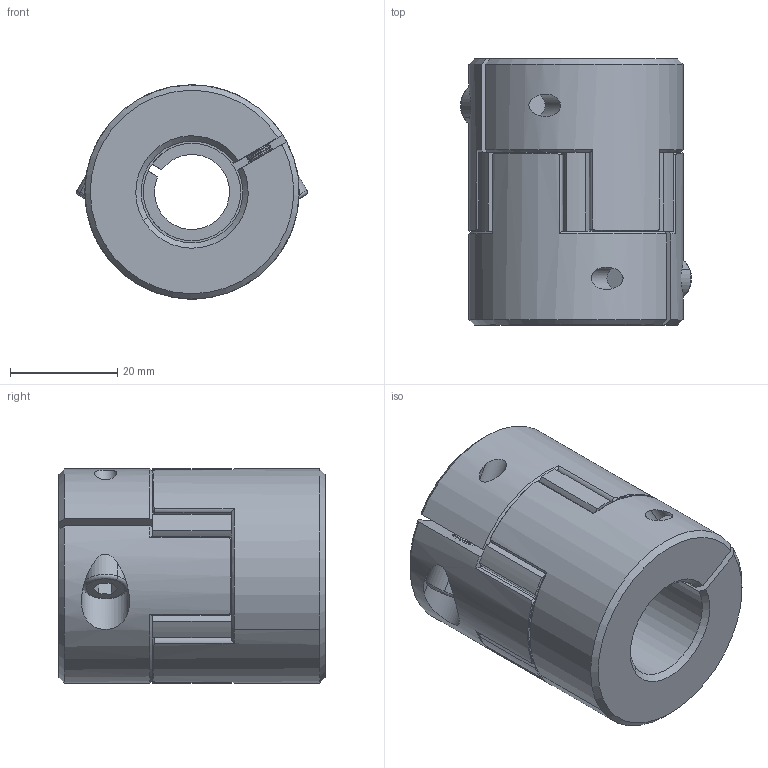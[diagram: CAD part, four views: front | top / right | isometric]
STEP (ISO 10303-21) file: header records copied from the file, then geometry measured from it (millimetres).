
FILE_DESCRIPTION (( 'STEP AP203' ), '1' );
FILE_NAME ('LF-B-D40L50-14-19.STEP', '2021-10-27T05:49:49', ( '' ), ( '' ), 'SwSTEP 2.0', 'SolidWorks 2018', '' );
FILE_SCHEMA (( 'CONFIG_CONTROL_DESIGN' ));
Length unit declared in the file: millimetre
Products named in the file (1): LF-B-D40L50-14-19
Bounding box: 43.11 x 49.7 x 40 mm (x, y, z)
Volume: 49334.4 mm3; surface area: 14623.5 mm2
Topology: 1 solids, 7 shells, 470 faces, 1113 edges, 660 vertices
Faces by surface type: cone 170, cylinder 169, plane 127, torus 4
Entity records: 13932 total; most frequent: CARTESIAN_POINT 2888, DIRECTION 2501, ORIENTED_EDGE 2218, EDGE_CURVE 1109, AXIS2_PLACEMENT_3D 1037, VERTEX_POINT 660, CIRCLE 566, EDGE_LOOP 487
